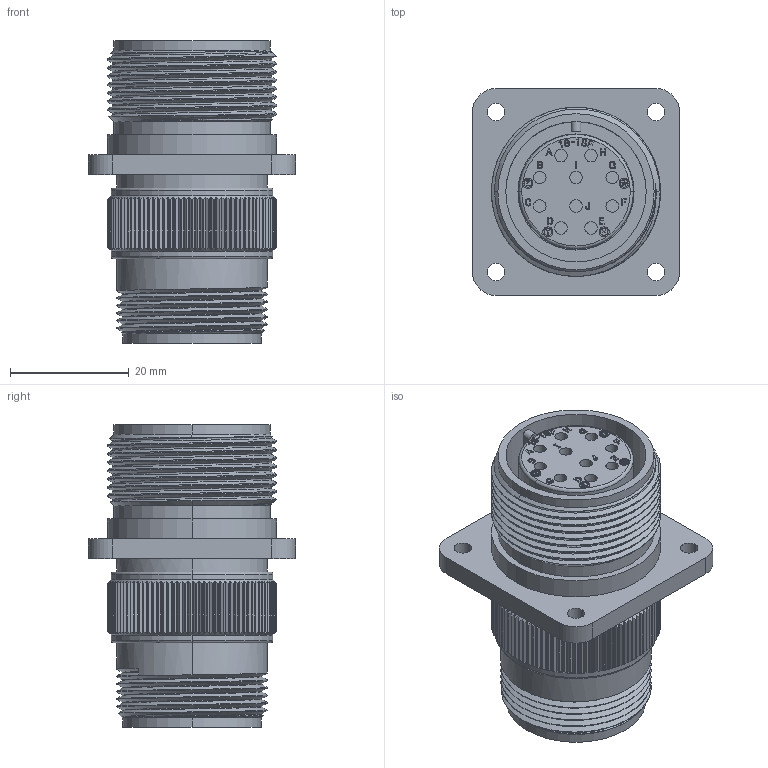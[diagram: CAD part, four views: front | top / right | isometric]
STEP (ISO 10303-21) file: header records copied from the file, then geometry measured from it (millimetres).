
FILE_DESCRIPTION (( 'STEP AP203' ), '1' );
FILE_NAME ('DMS3100A18-1S.STEP', '2017-07-10T01:32:07', ( '' ), ( '' ), 'SwSTEP 2.0', 'SolidWorks 2015', '' );
FILE_SCHEMA (( 'CONFIG_CONTROL_DESIGN' ));
Length unit declared in the file: millimetre
Products named in the file (1): DMS3100A18-1S
Bounding box: 34.92 x 34.92 x 51.06 mm (x, y, z)
Volume: 21561.1 mm3; surface area: 15186.4 mm2
Topology: 1 solids, 1 shells, 1745 faces, 4879 edges, 3233 vertices
Faces by surface type: plane 739, cylinder 696, bspline 266, torus 26, cone 18
Entity records: 72236 total; most frequent: CARTESIAN_POINT 31254, ORIENTED_EDGE 9758, DIRECTION 6575, EDGE_CURVE 4879, VERTEX_POINT 3233, LINE 2411, VECTOR 2411, AXIS2_PLACEMENT_3D 2082
